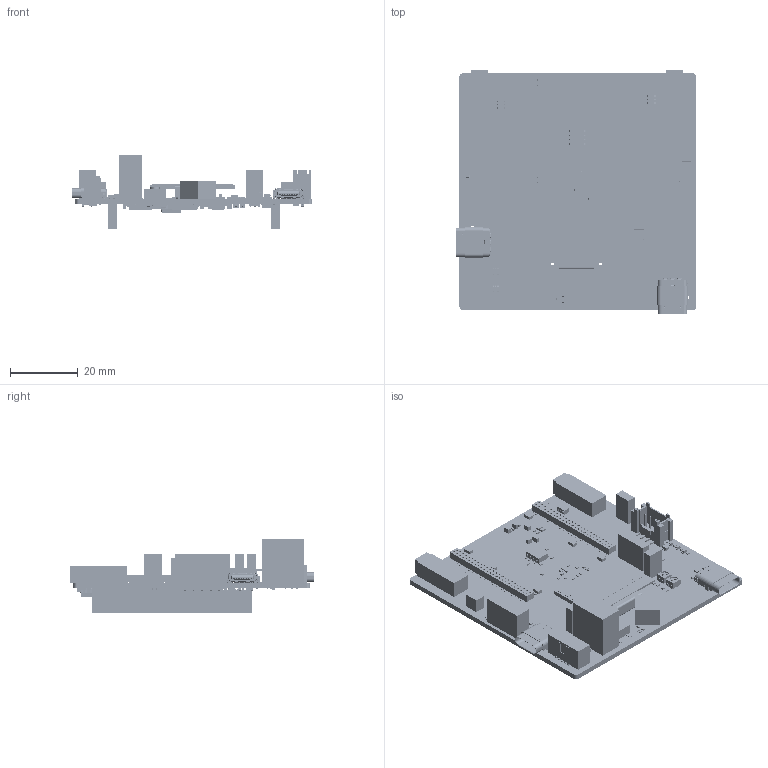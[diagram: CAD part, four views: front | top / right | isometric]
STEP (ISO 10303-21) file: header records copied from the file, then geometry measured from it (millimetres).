
FILE_DESCRIPTION(('Open CASCADE Model'),'2;1');
FILE_NAME('Open CASCADE Shape Model','2025-01-16T18:26:55',('Author'),( 'Open CASCADE'),'Open CASCADE STEP processor 7.5','Open CASCADE 7.5' ,'Unknown');
FILE_SCHEMA(('AUTOMOTIVE_DESIGN { 1 0 10303 214 1 1 1 1 }'));
Length unit declared in the file: millimetre
Products named in the file (532): PCB; Board; Open CASCADE STEP translator 7.5 1.1.1; SB42; R0603; 7173596160; Extruded; SB41; SB40; SB39; SB38; SB37; SB36; R64; R0402; 7173284656; C95; C0402; JP4; TSW-105-07-G-D; _TSW-105-07-G-D_body; _T-1S6-07-TSW-1-07-5-D; 7174300096; C25; User Library-CAP_TANT_6032-28_y; C16; CN6; c12401826; MSBR-3; MSBR-2; MSBR-1; _12401826E412A_ASM_ASM; 7173285136; SB35; U22; 7173592000; 7173591760; Cylinder; U2; 5884583248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
Assembly tree (1229 placements, depth 4):
  PCB
    Board
      Open CASCADE STEP translator 7.5 1.1.1
    SB42
      R0603
      7173596160
        Extruded
    SB41
      R0603
      7173596160
        Extruded
    SB40
      R0603
      7173596160
        Extruded
    SB39
      R0603
      7173596160
        Extruded
    SB38
      R0603
      7173596160
        Extruded
    SB37
      R0603
      7173596160
        Extruded
    SB36
      R0603
      7173596160
        Extruded
    R64
      R0402
      7173284656
        Extruded
    C95
      C0402
      7173284656
        Extruded
    JP4
      TSW-105-07-G-D
        _TSW-105-07-G-D_body
        _T-1S6-07-TSW-1-07-5-D
      7174300096
        Extruded
    C25
      User Library-CAP_TANT_6032-28_y
    C16
      User Library-CAP_TANT_6032-28_y
    CN6
      c12401826
        MSBR-3
        MSBR-2
        MSBR-1
        _12401826E412A_ASM_ASM
      7173285136
        Extruded
    SB35
      R0603
      7173596160
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Bounding box: 71.09 x 71.99 x 22.09 mm (x, y, z)
Volume: 17215 mm3; surface area: 32351.9 mm2
Topology: 1141 solids, 1178 shells, 44246 faces, 107648 edges, 63755 vertices
Faces by surface type: plane 20939, cylinder 11284, bspline 6988, sphere 3625, torus 752, revolution 490, cone 168
Full cylindrical faces by diameter (mm): 0.2 x3, 0.24 x1, 0.3 x3, 0.4 x1, 0.5 x4, 0.65 x2, 0.8 x3, 0.97 x2, 1 x20, 1.1 x4, 1.19 x2, 2 x4
Entity records: 346067 total; most frequent: CARTESIAN_POINT 65183, ORIENTED_EDGE 47234, DIRECTION 45813, EDGE_CURVE 23619, LINE 19747, VECTOR 19747, VERTEX_POINT 15190, AXIS2_PLACEMENT_3D 13028
